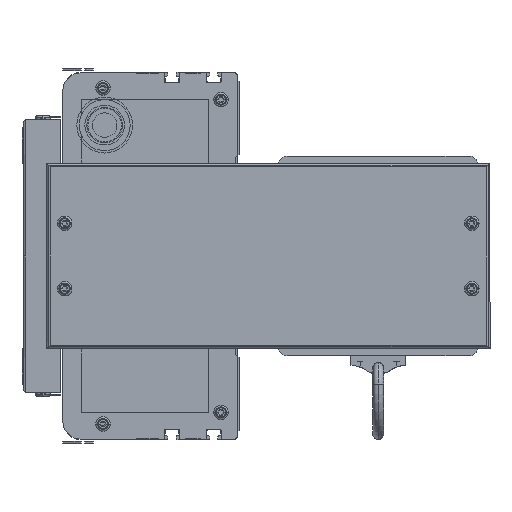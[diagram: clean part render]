
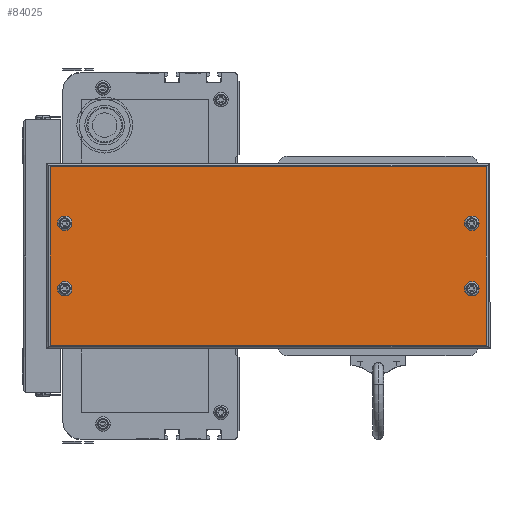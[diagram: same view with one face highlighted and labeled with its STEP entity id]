
A CAD part, left-side view. The second image highlights one B-rep face of the part: STEP entity #84025.
In plain terms, the highlighted planar face has unit normal (-1, 0, 0) as drawn and (1, 0, 0) by its records, which use the part's own axes.
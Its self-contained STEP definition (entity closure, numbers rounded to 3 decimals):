
#83660 = EDGE_CURVE ( 'NONE', #83688, #83906, #120334, .T. ) ;
#83688 = VERTEX_POINT ( 'NONE', #120571 ) ;
#83850 = ORIENTED_EDGE ( 'NONE', *, *, #84060, .T. ) ;
#83851 = VERTEX_POINT ( 'NONE', #128343 ) ;
#83875 = ORIENTED_EDGE ( 'NONE', *, *, #84335, .F. ) ;
#83906 = VERTEX_POINT ( 'NONE', #152500 ) ;
#83908 = EDGE_CURVE ( 'NONE', #83994, #83987, #152590, .T. ) ;
#83942 = EDGE_CURVE ( 'NONE', #84092, #84013, #152894, .T. ) ;
#83945 = EDGE_LOOP ( 'NONE', ( #83952, #84045 ) ) ;
#83946 = EDGE_CURVE ( 'NONE', #84013, #83851, #152796, .T. ) ;
#83948 = EDGE_CURVE ( 'NONE', #83987, #83994, #152888, .T. ) ;
#83949 = ORIENTED_EDGE ( 'NONE', *, *, #84047, .F. ) ;
#83952 = ORIENTED_EDGE ( 'NONE', *, *, #83948, .F. ) ;
#83953 = EDGE_LOOP ( 'NONE', ( #83949, #84051 ) ) ;
#83971 = VERTEX_POINT ( 'NONE', #152955 ) ;
#83972 = EDGE_CURVE ( 'NONE', #83998, #83971, #152920, .T. ) ;
#83987 = VERTEX_POINT ( 'NONE', #155940 ) ;
#83994 = VERTEX_POINT ( 'NONE', #156055 ) ;
#83997 = VERTEX_POINT ( 'NONE', #156006 ) ;
#83998 = VERTEX_POINT ( 'NONE', #155891 ) ;
#84009 = ORIENTED_EDGE ( 'NONE', *, *, #84011, .T. ) ;
#84011 = EDGE_CURVE ( 'NONE', #84064, #84092, #156007, .T. ) ;
#84013 = VERTEX_POINT ( 'NONE', #156060 ) ;
#84016 = ORIENTED_EDGE ( 'NONE', *, *, #83942, .T. ) ;
#84019 = VERTEX_POINT ( 'NONE', #156004 ) ;
#84021 = EDGE_CURVE ( 'NONE', #83997, #84019, #156246, .T. ) ;
#84024 = ORIENTED_EDGE ( 'NONE', *, *, #83946, .T. ) ;
#84025 = ADVANCED_FACE ( 'NONE', ( #156200, #156191, #156205, #156251, #156082 ), #156253, .F. ) ;
#84029 = EDGE_LOOP ( 'NONE', ( #84042, #84085 ) ) ;
#84042 = ORIENTED_EDGE ( 'NONE', *, *, #84084, .F. ) ;
#84045 = ORIENTED_EDGE ( 'NONE', *, *, #83908, .F. ) ;
#84047 = EDGE_CURVE ( 'NONE', #83906, #83688, #156279, .T. ) ;
#84050 = EDGE_LOOP ( 'NONE', ( #83875, #84304 ) ) ;
#84051 = ORIENTED_EDGE ( 'NONE', *, *, #83660, .F. ) ;
#84058 = EDGE_LOOP ( 'NONE', ( #83850, #84009, #84016, #84024 ) ) ;
#84060 = EDGE_CURVE ( 'NONE', #83851, #84064, #156503, .T. ) ;
#84064 = VERTEX_POINT ( 'NONE', #156504 ) ;
#84084 = EDGE_CURVE ( 'NONE', #84019, #83997, #156595, .T. ) ;
#84085 = ORIENTED_EDGE ( 'NONE', *, *, #84021, .F. ) ;
#84092 = VERTEX_POINT ( 'NONE', #156572 ) ;
#84304 = ORIENTED_EDGE ( 'NONE', *, *, #83972, .F. ) ;
#84335 = EDGE_CURVE ( 'NONE', #83971, #83998, #159256, .T. ) ;
#120309 = DIRECTION ( 'NONE',  ( 1., 0., 0. ) ) ;
#120324 = CARTESIAN_POINT ( 'NONE',  ( 50., 10., -33. ) ) ;
#120334 = CIRCLE ( 'NONE', #120372, 2.5 ) ;
#120371 = DIRECTION ( 'NONE',  ( 0., 0., -1. ) ) ;
#120372 = AXIS2_PLACEMENT_3D ( 'NONE', #120324, #120309, #120371 ) ;
#120571 = CARTESIAN_POINT ( 'NONE',  ( 50., 10., -30.5 ) ) ;
#128343 = CARTESIAN_POINT ( 'NONE',  ( 50., 242., -2. ) ) ;
#152500 = CARTESIAN_POINT ( 'NONE',  ( 50., 10., -35.5 ) ) ;
#152585 = DIRECTION ( 'NONE',  ( 0., 0., -1. ) ) ;
#152586 = DIRECTION ( 'NONE',  ( 1., 0., 0. ) ) ;
#152587 = CARTESIAN_POINT ( 'NONE',  ( 50., 10., -69. ) ) ;
#152588 = AXIS2_PLACEMENT_3D ( 'NONE', #152587, #152586, #152585 ) ;
#152590 = CIRCLE ( 'NONE', #152588, 2.5 ) ;
#152796 = LINE ( 'NONE', #152885, #152880 ) ;
#152870 = DIRECTION ( 'NONE',  ( 0., 0., -1. ) ) ;
#152872 = DIRECTION ( 'NONE',  ( 1., 0., 0. ) ) ;
#152880 = VECTOR ( 'NONE', #152883, 1000. ) ;
#152882 = AXIS2_PLACEMENT_3D ( 'NONE', #152896, #152872, #152870 ) ;
#152883 = DIRECTION ( 'NONE',  ( 0., 0., 1. ) ) ;
#152885 = CARTESIAN_POINT ( 'NONE',  ( 50., 242., 0. ) ) ;
#152888 = CIRCLE ( 'NONE', #152882, 2.5 ) ;
#152890 = DIRECTION ( 'NONE',  ( 0., 1., 0. ) ) ;
#152891 = VECTOR ( 'NONE', #152890, 1000. ) ;
#152892 = CARTESIAN_POINT ( 'NONE',  ( 50., 244., -100. ) ) ;
#152894 = LINE ( 'NONE', #152892, #152891 ) ;
#152896 = CARTESIAN_POINT ( 'NONE',  ( 50., 10., -69. ) ) ;
#152902 = DIRECTION ( 'NONE',  ( 0., 0., -1. ) ) ;
#152903 = DIRECTION ( 'NONE',  ( 1., 0., 0. ) ) ;
#152904 = AXIS2_PLACEMENT_3D ( 'NONE', #152927, #152903, #152902 ) ;
#152920 = CIRCLE ( 'NONE', #152904, 2.5 ) ;
#152927 = CARTESIAN_POINT ( 'NONE',  ( 50., 234., -33. ) ) ;
#152955 = CARTESIAN_POINT ( 'NONE',  ( 50., 234., -35.5 ) ) ;
#155891 = CARTESIAN_POINT ( 'NONE',  ( 50., 234., -30.5 ) ) ;
#155940 = CARTESIAN_POINT ( 'NONE',  ( 50., 10., -71.5 ) ) ;
#156004 = CARTESIAN_POINT ( 'NONE',  ( 50., 234., -71.5 ) ) ;
#156006 = CARTESIAN_POINT ( 'NONE',  ( 50., 234., -66.5 ) ) ;
#156007 = LINE ( 'NONE', #156092, #156084 ) ;
#156055 = CARTESIAN_POINT ( 'NONE',  ( 50., 10., -66.5 ) ) ;
#156060 = CARTESIAN_POINT ( 'NONE',  ( 50., 242., -100. ) ) ;
#156071 = AXIS2_PLACEMENT_3D ( 'NONE', #156212, #156210, #156208 ) ;
#156082 = FACE_BOUND ( 'NONE', #84050, .T. ) ;
#156084 = VECTOR ( 'NONE', #156090, 1000. ) ;
#156090 = DIRECTION ( 'NONE',  ( 0., 0., -1. ) ) ;
#156092 = CARTESIAN_POINT ( 'NONE',  ( 50., 2., 0. ) ) ;
#156163 = DIRECTION ( 'NONE',  ( 0., 0., 1. ) ) ;
#156164 = DIRECTION ( 'NONE',  ( -1., 0., 0. ) ) ;
#156165 = CARTESIAN_POINT ( 'NONE',  ( 50., 244., 0. ) ) ;
#156166 = AXIS2_PLACEMENT_3D ( 'NONE', #156165, #156164, #156163 ) ;
#156191 = FACE_BOUND ( 'NONE', #83945, .T. ) ;
#156200 = FACE_OUTER_BOUND ( 'NONE', #84058, .T. ) ;
#156205 = FACE_BOUND ( 'NONE', #83953, .T. ) ;
#156208 = DIRECTION ( 'NONE',  ( 0., 0., -1. ) ) ;
#156210 = DIRECTION ( 'NONE',  ( 1., 0., 0. ) ) ;
#156212 = CARTESIAN_POINT ( 'NONE',  ( 50., 234., -69. ) ) ;
#156246 = CIRCLE ( 'NONE', #156071, 2.5 ) ;
#156251 = FACE_BOUND ( 'NONE', #84029, .T. ) ;
#156253 = PLANE ( 'NONE',  #156166 ) ;
#156279 = CIRCLE ( 'NONE', #156413, 2.5 ) ;
#156286 = DIRECTION ( 'NONE',  ( 1., 0., 0. ) ) ;
#156370 = DIRECTION ( 'NONE',  ( 0., 0., -1. ) ) ;
#156391 = CARTESIAN_POINT ( 'NONE',  ( 50., 10., -33. ) ) ;
#156413 = AXIS2_PLACEMENT_3D ( 'NONE', #156391, #156286, #156370 ) ;
#156494 = DIRECTION ( 'NONE',  ( 0., -1., 0. ) ) ;
#156495 = VECTOR ( 'NONE', #156494, 1000. ) ;
#156496 = CARTESIAN_POINT ( 'NONE',  ( 50., 244., -2. ) ) ;
#156503 = LINE ( 'NONE', #156496, #156495 ) ;
#156504 = CARTESIAN_POINT ( 'NONE',  ( 50., 2., -2. ) ) ;
#156560 = DIRECTION ( 'NONE',  ( 0., 0., -1. ) ) ;
#156561 = DIRECTION ( 'NONE',  ( 1., 0., 0. ) ) ;
#156562 = CARTESIAN_POINT ( 'NONE',  ( 50., 234., -69. ) ) ;
#156565 = AXIS2_PLACEMENT_3D ( 'NONE', #156562, #156561, #156560 ) ;
#156572 = CARTESIAN_POINT ( 'NONE',  ( 50., 2., -100. ) ) ;
#156595 = CIRCLE ( 'NONE', #156565, 2.5 ) ;
#159256 = CIRCLE ( 'NONE', #159383, 2.5 ) ;
#159367 = DIRECTION ( 'NONE',  ( 0., 0., -1. ) ) ;
#159369 = DIRECTION ( 'NONE',  ( 1., 0., 0. ) ) ;
#159370 = CARTESIAN_POINT ( 'NONE',  ( 50., 234., -33. ) ) ;
#159383 = AXIS2_PLACEMENT_3D ( 'NONE', #159370, #159369, #159367 ) ;
